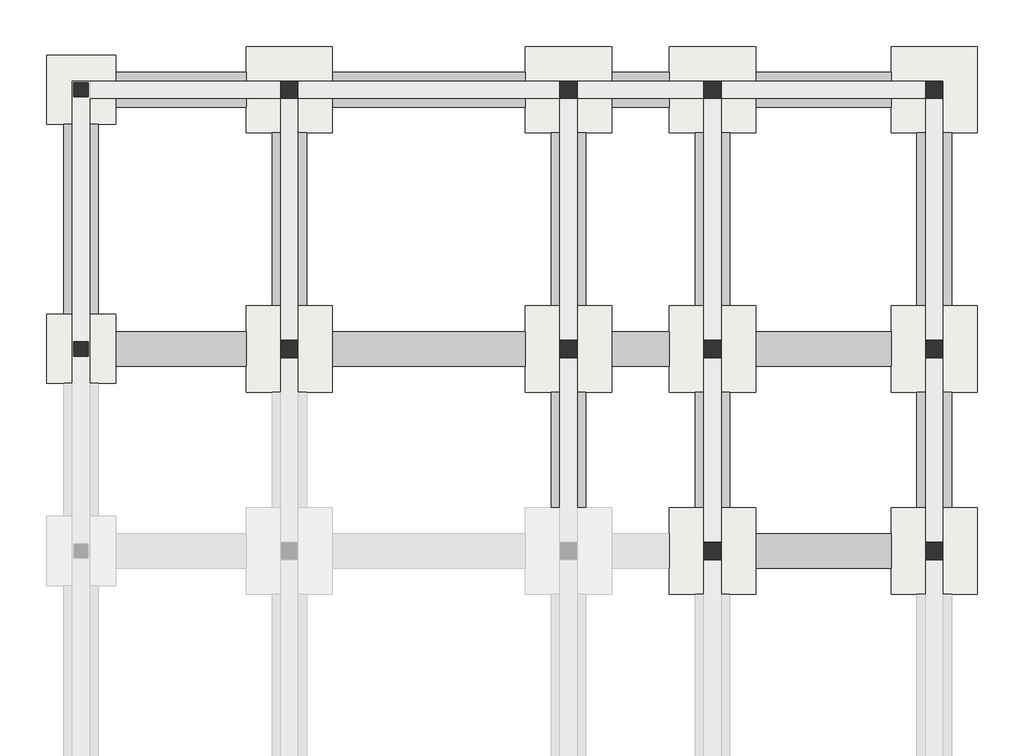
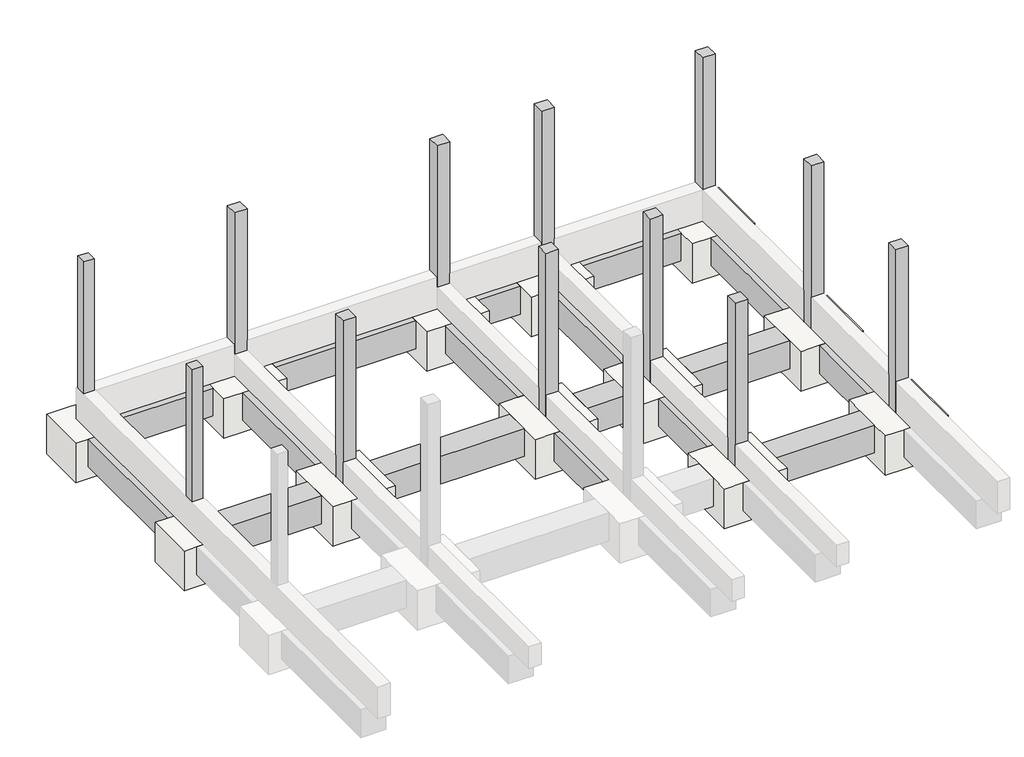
# One storey, part 2 of 2: 17 beams, 12 columns, 12 slabs.
"""IFC4 building model written with IfcOpenShell, lengths in millimetres."""

from ifc_helpers import new_model, si_unit, frame, origin, place, context, project, spatial, polyline, outline, extrude, faceted_brep, element, save

model = new_model("IFC4")

# Units and contexts
model_context = context("Model", 3, world=origin())
ifc_project = project(units=[si_unit("LENGTHUNIT", "METRE", prefix="MILLI")], contexts=[model_context])

# Site, building, storey
site = spatial("IfcSite", under=ifc_project)
building = spatial("IfcBuilding", under=site)
storey = spatial("IfcBuildingStorey", under=building, Name="00.ES.CIMENTACIÓN", Elevation=-680.0)

# Beams
placement = place(None, origin())
element("IfcBeam", 1, ObjectType="Hormigón-Viga rectangular : 600 x 700 mm", at=placement, inside=storey, context=model_context, shape_type="SweptSolid", body=[
    extrude(outline(polyline([(300.0, 12500.0), (900.0, 12500.0), (900.0, 9200.0), (300.0, 9200.0), (300.0, 12500.0)])), frame((0.0, 0.0, -1380.0), z_axis=(0.0, 0.0, 1.0), x_axis=(1.0, 0.0, 0.0)), (0.0, 0.0, 1.0), 700.0),
])
element("IfcBeam", 2, ObjectType="Hormigón-Viga rectangular : 600 x 700 mm", at=placement, inside=storey, context=model_context, shape_type="SweptSolid", body=[
    extrude(outline(polyline([(12315.0, 4790.0610844), (12315.0, 5390.0610844), (14665.0, 5390.0610844), (14665.0, 4790.0610844), (12315.0, 4790.0610844)])), frame((0.0, 0.0, -1380.0), z_axis=(0.0, 0.0, 1.0), x_axis=(1.0, 0.0, 0.0)), (0.0, 0.0, 1.0), 700.0),
])
element("IfcBeam", 3, ObjectType="Hormigón-Viga rectangular : 600 x 700 mm", at=placement, inside=storey, context=model_context, shape_type="SweptSolid", body=[
    extrude(outline(polyline([(12315.0, 8300.0), (12315.0, 8900.0), (14665.0, 8900.0), (14665.0, 8300.0), (12315.0, 8300.0)])), frame((0.0, 0.0, -1380.0), z_axis=(0.0, 0.0, 1.0), x_axis=(1.0, 0.0, 0.0)), (0.0, 0.0, 1.0), 700.0),
])
element("IfcBeam", 4, ObjectType="Hormigón-Viga rectangular : 600 x 700 mm", at=placement, inside=storey, context=model_context, shape_type="SweptSolid", body=[
    extrude(outline(polyline([(9815.0, 8300.0), (9815.0, 8900.0), (10815.0, 8900.0), (10815.0, 8300.0), (9815.0, 8300.0)])), frame((0.0, 0.0, -1380.0), z_axis=(0.0, 0.0, 1.0), x_axis=(1.0, 0.0, 0.0)), (0.0, 0.0, 1.0), 700.0),
])
element("IfcBeam", 5, ObjectType="Hormigón-Viga rectangular : 600 x 700 mm", at=placement, inside=storey, context=model_context, shape_type="SweptSolid", body=[
    extrude(outline(polyline([(4965.0, 8300.0), (4965.0, 8900.0), (8315.0, 8900.0), (8315.0, 8300.0), (4965.0, 8300.0)])), frame((0.0, 0.0, -1380.0), z_axis=(0.0, 0.0, 1.0), x_axis=(1.0, 0.0, 0.0)), (0.0, 0.0, 1.0), 700.0),
])
element("IfcBeam", 6, ObjectType="Hormigón-Viga rectangular : 600 x 700 mm", at=placement, inside=storey, context=model_context, shape_type="SweptSolid", body=[
    extrude(outline(polyline([(3465.0, 8900.0), (3465.0, 8300.0), (1200.0, 8300.0), (1200.0, 8900.0), (3465.0, 8900.0)])), frame((0.0, 0.0, -1380.0), z_axis=(0.0, 0.0, 1.0), x_axis=(1.0, 0.0, 0.0)), (0.0, 0.0, 1.0), 700.0),
])
element("IfcBeam", 7, ObjectType="Hormigón-Viga rectangular : 600 x 700 mm", at=placement, inside=storey, context=model_context, shape_type="SweptSolid", body=[
    extrude(outline(polyline([(12315.0, 12800.0), (12315.0, 13400.0), (14665.0, 13400.0), (14665.0, 12800.0), (12315.0, 12800.0)])), frame((0.0, 0.0, -1380.0), z_axis=(0.0, 0.0, 1.0), x_axis=(1.0, 0.0, 0.0)), (0.0, 0.0, 1.0), 700.0),
])
element("IfcBeam", 8, ObjectType="Hormigón-Viga rectangular : 600 x 700 mm", at=placement, inside=storey, context=model_context, shape_type="SweptSolid", body=[
    extrude(outline(polyline([(9815.0, 12800.0), (9815.0, 13400.0), (10815.0, 13400.0), (10815.0, 12800.0), (9815.0, 12800.0)])), frame((0.0, 0.0, -1380.0), z_axis=(0.0, 0.0, 1.0), x_axis=(1.0, 0.0, 0.0)), (0.0, 0.0, 1.0), 700.0),
])
element("IfcBeam", 9, ObjectType="Hormigón-Viga rectangular : 600 x 700 mm", at=placement, inside=storey, context=model_context, shape_type="SweptSolid", body=[
    extrude(outline(polyline([(4965.0, 12800.0), (4965.0, 13400.0), (8315.0, 13400.0), (8315.0, 12800.0), (4965.0, 12800.0)])), frame((0.0, 0.0, -1380.0), z_axis=(0.0, 0.0, 1.0), x_axis=(1.0, 0.0, 0.0)), (0.0, 0.0, 1.0), 700.0),
])
element("IfcBeam", 10, ObjectType="Hormigón-Viga rectangular : 600 x 700 mm", at=placement, inside=storey, context=model_context, shape_type="SweptSolid", body=[
    extrude(outline(polyline([(3465.0, 13400.0), (3465.0, 12800.0), (1200.0, 12800.0), (1200.0, 13400.0), (3465.0, 13400.0)])), frame((0.0, 0.0, -1380.0), z_axis=(0.0, 0.0, 1.0), x_axis=(1.0, 0.0, 0.0)), (0.0, 0.0, 1.0), 700.0),
])
element("IfcBeam", 11, ObjectType="Hormigón-Viga rectangular : 600 x 700 mm", at=placement, inside=storey, context=model_context, shape_type="SweptSolid", body=[
    extrude(outline(polyline([(3915.0, 12350.0), (4515.0, 12350.0), (4515.0, 9350.0), (3915.0, 9350.0), (3915.0, 12350.0)])), frame((0.0, 0.0, -1380.0), z_axis=(0.0, 0.0, 1.0), x_axis=(1.0, 0.0, 0.0)), (0.0, 0.0, 1.0), 700.0),
])
element("IfcBeam", 12, ObjectType="Hormigón-Viga rectangular : 600 x 700 mm", at=placement, inside=storey, context=model_context, shape_type="SweptSolid", body=[
    extrude(outline(polyline([(8765.0, 7850.0), (9365.0, 7850.0), (9365.0, 5840.0610844), (8765.0, 5840.0610844), (8765.0, 7850.0)])), frame((0.0, 0.0, -1380.0), z_axis=(0.0, 0.0, 1.0), x_axis=(1.0, 0.0, 0.0)), (0.0, 0.0, 1.0), 700.0),
])
element("IfcBeam", 13, ObjectType="Hormigón-Viga rectangular : 600 x 700 mm", at=placement, inside=storey, context=model_context, shape_type="SweptSolid", body=[
    extrude(outline(polyline([(8765.0, 12350.0), (9365.0, 12350.0), (9365.0, 9350.0), (8765.0, 9350.0), (8765.0, 12350.0)])), frame((0.0, 0.0, -1380.0), z_axis=(0.0, 0.0, 1.0), x_axis=(1.0, 0.0, 0.0)), (0.0, 0.0, 1.0), 700.0),
])
element("IfcBeam", 14, ObjectType="Hormigón-Viga rectangular : 600 x 700 mm", at=placement, inside=storey, context=model_context, shape_type="SweptSolid", body=[
    extrude(outline(polyline([(11265.0, 7850.0), (11865.0, 7850.0), (11865.0, 5840.0610844), (11265.0, 5840.0610844), (11265.0, 7850.0)])), frame((0.0, 0.0, -1380.0), z_axis=(0.0, 0.0, 1.0), x_axis=(1.0, 0.0, 0.0)), (0.0, 0.0, 1.0), 700.0),
])
element("IfcBeam", 15, ObjectType="Hormigón-Viga rectangular : 600 x 700 mm", at=placement, inside=storey, context=model_context, shape_type="SweptSolid", body=[
    extrude(outline(polyline([(11265.0, 12350.0), (11865.0, 12350.0), (11865.0, 9350.0), (11265.0, 9350.0), (11265.0, 12350.0)])), frame((0.0, 0.0, -1380.0), z_axis=(0.0, 0.0, 1.0), x_axis=(1.0, 0.0, 0.0)), (0.0, 0.0, 1.0), 700.0),
])
element("IfcBeam", 16, ObjectType="Hormigón-Viga rectangular : 600 x 700 mm", at=placement, inside=storey, context=model_context, shape_type="SweptSolid", body=[
    extrude(outline(polyline([(15115.0, 7850.0), (15715.0, 7850.0), (15715.0, 5840.0610844), (15115.0, 5840.0610844), (15115.0, 7850.0)])), frame((0.0, 0.0, -1380.0), z_axis=(0.0, 0.0, 1.0), x_axis=(1.0, 0.0, 0.0)), (0.0, 0.0, 1.0), 700.0),
])
element("IfcBeam", 17, ObjectType="Hormigón-Viga rectangular : 600 x 700 mm", at=placement, inside=storey, context=model_context, shape_type="SweptSolid", body=[
    extrude(outline(polyline([(15115.0, 12350.0), (15715.0, 12350.0), (15715.0, 9350.0), (15115.0, 9350.0), (15115.0, 12350.0)])), frame((0.0, 0.0, -1380.0), z_axis=(0.0, 0.0, 1.0), x_axis=(1.0, 0.0, 0.0)), (0.0, 0.0, 1.0), 700.0),
])

# Columns
element("IfcColumn", 18, ObjectType="Pilar rectangular hormigón : 250 x 250 mm", at=placement, inside=storey, context=model_context, shape_type="Brep", body=[
    faceted_brep([(725.0, 13225.0, 3450.0), (475.0, 13225.0, 3450.0), (475.0, 12975.0, 3450.0), (725.0, 12975.0, 3450.0), (725.0, 13225.0, -680.0), (725.0, 12975.0, -680.0), (475.0, 12975.0, -680.0), (475.0, 13225.0, -680.0), (725.0, 13225.0, 120.0), (475.0, 13225.0, 120.0), (475.0, 12975.0, 120.0), (725.0, 12975.0, 120.0)], [[[0, 1, 2, 3]], [[4, 5, 6, 7]], [[1, 0, 8, 4, 7, 9]], [[2, 1, 9, 7, 6, 10]], [[3, 2, 10, 6, 5, 11]], [[0, 3, 11, 5, 4, 8]]]),
])
element("IfcColumn", 19, ObjectType="Pilar rectangular hormigón : 250 x 250 mm", at=placement, inside=storey, context=model_context, shape_type="Brep", body=[
    faceted_brep([(725.0, 8725.0, 3450.0), (475.0, 8725.0, 3450.0), (475.0, 8475.0, 3450.0), (725.0, 8475.0, 3450.0), (725.0, 8725.0, -680.0), (725.0, 8475.0, -680.0), (475.0, 8475.0, -680.0), (475.0, 8725.0, -680.0), (725.0, 8725.0, 120.0), (475.0, 8725.0, 120.0), (475.0, 8475.0, 120.0), (725.0, 8475.0, 120.0)], [[[0, 1, 2, 3]], [[4, 5, 6, 7]], [[1, 0, 8, 4, 7, 9]], [[2, 1, 9, 7, 6, 10]], [[3, 2, 10, 6, 5, 11]], [[0, 3, 11, 5, 4, 8]]]),
])
element("IfcColumn", 20, ObjectType="Pilar rectangular hormigón : 300 x 300 mm", at=placement, inside=storey, context=model_context, shape_type="Brep", body=[
    faceted_brep([(4365.0, 13250.0, 3450.0), (4065.0, 13250.0, 3450.0), (4065.0, 12950.0, 3450.0), (4365.0, 12950.0, 3450.0), (4365.0, 13250.0, -680.0), (4365.0, 12950.0, -680.0), (4065.0, 12950.0, -680.0), (4065.0, 13250.0, -680.0), (4365.0, 13250.0, 120.0), (4065.0, 13250.0, 120.0), (4065.0, 12950.0, 120.0), (4065.0, 12950.0, 3050.0), (4365.0, 12950.0, 120.0), (4365.0, 12950.0, 3050.0)], [[[0, 1, 2, 3]], [[4, 5, 6, 7]], [[1, 0, 8, 4, 7, 9]], [[2, 1, 9, 7, 6, 10, 11]], [[3, 2, 11, 10, 6, 5, 12, 13]], [[0, 3, 13, 12, 5, 4, 8]]]),
])
element("IfcColumn", 21, ObjectType="Pilar rectangular hormigón : 300 x 300 mm", at=placement, inside=storey, context=model_context, shape_type="Brep", body=[
    faceted_brep([(9215.0, 13250.0, 3450.0), (8915.0, 13250.0, 3450.0), (8915.0, 12950.0, 3450.0), (9215.0, 12950.0, 3450.0), (9215.0, 13250.0, -680.0), (9215.0, 12950.0, -680.0), (8915.0, 12950.0, -680.0), (8915.0, 13250.0, -680.0), (9215.0, 13250.0, 120.0), (8915.0, 13250.0, 120.0), (8915.0, 12950.0, 120.0), (9215.0, 12950.0, 120.0)], [[[0, 1, 2, 3]], [[4, 5, 6, 7]], [[1, 0, 8, 4, 7, 9]], [[2, 1, 9, 7, 6, 10]], [[3, 2, 10, 6, 5, 11]], [[0, 3, 11, 5, 4, 8]]]),
])
element("IfcColumn", 22, ObjectType="Pilar rectangular hormigón : 300 x 300 mm", at=placement, inside=storey, context=model_context, shape_type="Brep", body=[
    faceted_brep([(11715.0, 13250.0, 3450.0), (11415.0, 13250.0, 3450.0), (11415.0, 12950.0, 3450.0), (11715.0, 12950.0, 3450.0), (11715.0, 13250.0, -680.0), (11715.0, 12950.0, -680.0), (11415.0, 12950.0, -680.0), (11415.0, 13250.0, -680.0), (11715.0, 13250.0, 120.0), (11415.0, 13250.0, 120.0), (11415.0, 12950.0, 120.0), (11715.0, 12950.0, 120.0), (11715.0, 12950.0, 3200.0)], [[[0, 1, 2, 3]], [[4, 5, 6, 7]], [[1, 0, 8, 4, 7, 9]], [[2, 1, 9, 7, 6, 10]], [[3, 2, 10, 6, 5, 11, 12]], [[0, 3, 12, 11, 5, 4, 8]]]),
])
element("IfcColumn", 23, ObjectType="Pilar rectangular hormigón : 300 x 300 mm", at=placement, inside=storey, context=model_context, shape_type="Brep", body=[
    faceted_brep([(15565.0, 13250.0, 3450.0), (15265.0, 13250.0, 3450.0), (15265.0, 12950.0, 3450.0), (15565.0, 12950.0, 3450.0), (15565.0, 13250.0, -680.0), (15565.0, 12950.0, -680.0), (15265.0, 12950.0, -680.0), (15265.0, 13250.0, -680.0), (15565.0, 13250.0, 120.0), (15265.0, 13250.0, 120.0), (15265.0, 12950.0, 120.0), (15265.0, 12950.0, 3200.0), (15565.0, 12950.0, 120.0)], [[[0, 1, 2, 3]], [[4, 5, 6, 7]], [[1, 0, 8, 4, 7, 9]], [[2, 1, 9, 7, 6, 10, 11]], [[3, 2, 11, 10, 6, 5, 12]], [[0, 3, 12, 5, 4, 8]]]),
])
element("IfcColumn", 24, ObjectType="Pilar rectangular hormigón : 300 x 300 mm", at=placement, inside=storey, context=model_context, shape_type="Brep", body=[
    faceted_brep([(4365.0, 8750.0, 3450.0), (4065.0, 8750.0, 3450.0), (4065.0, 8450.0, 3450.0), (4365.0, 8450.0, 3450.0), (4365.0, 8750.0, -680.0), (4365.0, 8450.0, -680.0), (4065.0, 8450.0, -680.0), (4065.0, 8750.0, -680.0), (4365.0, 8750.0, 3050.0), (4365.0, 8750.0, 120.0), (4365.0, 8750.0, -130.0), (4065.0, 8750.0, -130.0), (4065.0, 8750.0, 120.0), (4065.0, 8750.0, 3050.0), (4065.0, 8450.0, -130.0), (4065.0, 8450.0, 120.0), (4065.0, 8450.0, 3050.0), (4365.0, 8450.0, -130.0), (4365.0, 8450.0, 120.0), (4365.0, 8450.0, 3050.0)], [[[0, 1, 2, 3]], [[4, 5, 6, 7]], [[1, 0, 8, 9, 10, 4, 7, 11, 12, 13]], [[2, 1, 13, 12, 11, 7, 6, 14, 15, 16]], [[3, 2, 16, 15, 14, 6, 5, 17, 18, 19]], [[0, 3, 19, 18, 17, 5, 4, 10, 9, 8]]]),
])
element("IfcColumn", 25, ObjectType="Pilar rectangular hormigón : 300 x 300 mm", at=placement, inside=storey, context=model_context, shape_type="Brep", body=[
    faceted_brep([(9215.0, 8750.0, 3450.0), (8915.0, 8750.0, 3450.0), (8915.0, 8450.0, 3450.0), (9215.0, 8450.0, 3450.0), (9215.0, 8750.0, -680.0), (9215.0, 8450.0, -680.0), (8915.0, 8450.0, -680.0), (8915.0, 8750.0, -680.0), (9215.0, 8750.0, 3050.0), (9215.0, 8750.0, 120.0), (9215.0, 8750.0, -130.0), (8915.0, 8750.0, -130.0), (8915.0, 8450.0, -130.0), (9215.0, 8450.0, -130.0), (9215.0, 8450.0, 120.0), (9215.0, 8450.0, 3050.0)], [[[0, 1, 2, 3]], [[4, 5, 6, 7]], [[1, 0, 8, 9, 10, 4, 7, 11]], [[2, 1, 11, 7, 6, 12]], [[3, 2, 12, 6, 5, 13, 14, 15]], [[0, 3, 15, 14, 13, 5, 4, 10, 9, 8]]]),
])
element("IfcColumn", 26, ObjectType="Pilar rectangular hormigón : 300 x 300 mm", at=placement, inside=storey, context=model_context, shape_type="Brep", body=[
    faceted_brep([(11715.0, 8750.0, 3450.0), (11415.0, 8750.0, 3450.0), (11415.0, 8450.0, 3450.0), (11715.0, 8450.0, 3450.0), (11715.0, 8750.0, -680.0), (11715.0, 8450.0, -680.0), (11415.0, 8450.0, -680.0), (11415.0, 8750.0, -680.0), (11715.0, 8750.0, 3200.0), (11715.0, 8750.0, 120.0), (11715.0, 8750.0, -130.0), (11415.0, 8750.0, -130.0), (11415.0, 8750.0, 120.0), (11415.0, 8750.0, 3050.0), (11415.0, 8450.0, -130.0), (11415.0, 8450.0, 120.0), (11415.0, 8450.0, 3050.0), (11715.0, 8450.0, -130.0)], [[[0, 1, 2, 3]], [[4, 5, 6, 7]], [[1, 0, 8, 9, 10, 4, 7, 11, 12, 13]], [[2, 1, 13, 12, 11, 7, 6, 14, 15, 16]], [[3, 2, 16, 15, 14, 6, 5, 17]], [[0, 3, 17, 5, 4, 10, 9, 8]]]),
])
element("IfcColumn", 27, ObjectType="Pilar rectangular hormigón : 300 x 300 mm", at=placement, inside=storey, context=model_context, shape_type="Brep", body=[
    faceted_brep([(15565.0, 8750.0, 3450.0), (15265.0, 8750.0, 3450.0), (15265.0, 8450.0, 3450.0), (15565.0, 8450.0, 3450.0), (15565.0, 8750.0, -680.0), (15565.0, 8450.0, -680.0), (15265.0, 8450.0, -680.0), (15265.0, 8750.0, -680.0), (15565.0, 8750.0, 120.0), (15265.0, 8750.0, 120.0), (15265.0, 8750.0, 3200.0), (15265.0, 8450.0, 120.0), (15265.0, 8450.0, 3200.0), (15565.0, 8450.0, 120.0)], [[[0, 1, 2, 3]], [[4, 5, 6, 7]], [[1, 0, 8, 4, 7, 9, 10]], [[2, 1, 10, 9, 7, 6, 11, 12]], [[3, 2, 12, 11, 6, 5, 13]], [[0, 3, 13, 5, 4, 8]]]),
])
element("IfcColumn", 28, ObjectType="Pilar rectangular hormigón : 300 x 300 mm", at=placement, inside=storey, context=model_context, shape_type="Brep", body=[
    faceted_brep([(11715.0, 5240.0610844, 3450.0), (11415.0, 5240.0610844, 3450.0), (11415.0, 4940.0610844, 3450.0), (11715.0, 4940.0610844, 3450.0), (11715.0, 5240.0610844, -680.0), (11715.0, 4940.0610844, -680.0), (11415.0, 4940.0610844, -680.0), (11415.0, 5240.0610844, -680.0), (11715.0, 5240.0610844, -130.0), (11415.0, 5240.0610844, -130.0), (11415.0, 5240.0610844, 120.0), (11415.0, 5240.0610844, 3050.0), (11415.0, 4940.0610844, -130.0), (11415.0, 4940.0610844, 120.0), (11415.0, 4940.0610844, 3050.0), (11715.0, 4940.0610844, -130.0)], [[[0, 1, 2, 3]], [[4, 5, 6, 7]], [[1, 0, 8, 4, 7, 9, 10, 11]], [[2, 1, 11, 10, 9, 7, 6, 12, 13, 14]], [[3, 2, 14, 13, 12, 6, 5, 15]], [[0, 3, 15, 5, 4, 8]]]),
])
element("IfcColumn", 29, ObjectType="Pilar rectangular hormigón : 300 x 300 mm", at=placement, inside=storey, context=model_context, shape_type="Brep", body=[
    faceted_brep([(15565.0, 5240.0610844, 3450.0), (15265.0, 5240.0610844, 3450.0), (15265.0, 4940.0610844, 3450.0), (15565.0, 4940.0610844, 3450.0), (15565.0, 5240.0610844, -680.0), (15565.0, 4940.0610844, -680.0), (15265.0, 4940.0610844, -680.0), (15265.0, 5240.0610844, -680.0), (15565.0, 5240.0610844, 120.0), (15265.0, 5240.0610844, 120.0), (15265.0, 5240.0610844, 3200.0), (15265.0, 4940.0610844, 120.0), (15265.0, 4940.0610844, 3050.0), (15565.0, 4940.0610844, 120.0), (15565.0, 4940.0610844, 3050.0)], [[[0, 1, 2, 3]], [[4, 5, 6, 7]], [[1, 0, 8, 4, 7, 9, 10]], [[2, 1, 10, 9, 7, 6, 11, 12]], [[3, 2, 12, 11, 6, 5, 13, 14]], [[0, 3, 14, 13, 5, 4, 8]]]),
])

# Slabs
element("IfcSlab", 30, ObjectType="Zapata-Rectangular : 1200 x 1200 x 1000 mm", at=placement, inside=storey, context=model_context, shape_type="Brep", body=[
    faceted_brep([(1200.0, 13700.0, -680.0), (0.0, 13700.0, -680.0), (0.0, 12500.0, -680.0), (300.0, 12500.0, -680.0), (900.0, 12500.0, -680.0), (1200.0, 12500.0, -680.0), (1200.0, 12800.0, -680.0), (1200.0, 13400.0, -680.0), (1200.0, 13700.0, -1680.0), (1200.0, 12500.0, -1680.0), (0.0, 12500.0, -1680.0), (0.0, 13700.0, -1680.0)], [[[0, 1, 2, 3, 4, 5, 6, 7]], [[8, 9, 10, 11]], [[1, 0, 8, 11]], [[2, 1, 11, 10]], [[5, 4, 3, 2, 10, 9]], [[0, 7, 6, 5, 9, 8]]]),
])
element("IfcSlab", 31, ObjectType="Zapata-Rectangular : 1200 x 1200 x 1000 mm", at=placement, inside=storey, context=model_context, shape_type="Brep", body=[
    faceted_brep([(1200.0, 9200.0, -680.0), (900.0, 9200.0, -680.0), (300.0, 9200.0, -680.0), (0.0, 9200.0, -680.0), (0.0, 8000.0, -680.0), (300.0, 8000.0, -680.0), (900.0, 8000.0, -680.0), (1200.0, 8000.0, -680.0), (1200.0, 8300.0, -680.0), (1200.0, 8900.0, -680.0), (1200.0, 9200.0, -1680.0), (1200.0, 8000.0, -1680.0), (0.0, 8000.0, -1680.0), (0.0, 9200.0, -1680.0)], [[[0, 1, 2, 3, 4, 5, 6, 7, 8, 9]], [[10, 11, 12, 13]], [[3, 2, 1, 0, 10, 13]], [[4, 3, 13, 12]], [[7, 6, 5, 4, 12, 11]], [[0, 9, 8, 7, 11, 10]]]),
])
element("IfcSlab", 32, ObjectType="Zapata-Rectangular : 1500 x 1500 x 1000 mm", at=placement, inside=storey, context=model_context, shape_type="Brep", body=[
    faceted_brep([(4965.0, 13850.0, -680.0), (3465.0, 13850.0, -680.0), (3465.0, 13400.0, -680.0), (3465.0, 12800.0, -680.0), (3465.0, 12350.0, -680.0), (3915.0, 12350.0, -680.0), (4515.0, 12350.0, -680.0), (4965.0, 12350.0, -680.0), (4965.0, 12800.0, -680.0), (4965.0, 13400.0, -680.0), (4965.0, 13850.0, -1680.0), (4965.0, 12350.0, -1680.0), (3465.0, 12350.0, -1680.0), (3465.0, 13850.0, -1680.0)], [[[0, 1, 2, 3, 4, 5, 6, 7, 8, 9]], [[10, 11, 12, 13]], [[1, 0, 10, 13]], [[4, 3, 2, 1, 13, 12]], [[7, 6, 5, 4, 12, 11]], [[0, 9, 8, 7, 11, 10]]]),
])
element("IfcSlab", 33, ObjectType="Zapata-Rectangular : 1500 x 1500 x 1000 mm", at=placement, inside=storey, context=model_context, shape_type="Brep", body=[
    faceted_brep([(9815.0, 13850.0, -680.0), (8315.0, 13850.0, -680.0), (8315.0, 13400.0, -680.0), (8315.0, 12800.0, -680.0), (8315.0, 12350.0, -680.0), (8765.0, 12350.0, -680.0), (9365.0, 12350.0, -680.0), (9815.0, 12350.0, -680.0), (9815.0, 12800.0, -680.0), (9815.0, 13400.0, -680.0), (9815.0, 13850.0, -1680.0), (9815.0, 12350.0, -1680.0), (8315.0, 12350.0, -1680.0), (8315.0, 13850.0, -1680.0)], [[[0, 1, 2, 3, 4, 5, 6, 7, 8, 9]], [[10, 11, 12, 13]], [[1, 0, 10, 13]], [[4, 3, 2, 1, 13, 12]], [[7, 6, 5, 4, 12, 11]], [[0, 9, 8, 7, 11, 10]]]),
])
element("IfcSlab", 34, ObjectType="Zapata-Rectangular : 1500 x 1500 x 1000 mm", at=placement, inside=storey, context=model_context, shape_type="Brep", body=[
    faceted_brep([(12315.0, 13850.0, -680.0), (10815.0, 13850.0, -680.0), (10815.0, 13400.0, -680.0), (10815.0, 12800.0, -680.0), (10815.0, 12350.0, -680.0), (11265.0, 12350.0, -680.0), (11865.0, 12350.0, -680.0), (12315.0, 12350.0, -680.0), (12315.0, 12800.0, -680.0), (12315.0, 13400.0, -680.0), (12315.0, 13850.0, -1680.0), (12315.0, 12350.0, -1680.0), (10815.0, 12350.0, -1680.0), (10815.0, 13850.0, -1680.0)], [[[0, 1, 2, 3, 4, 5, 6, 7, 8, 9]], [[10, 11, 12, 13]], [[1, 0, 10, 13]], [[4, 3, 2, 1, 13, 12]], [[7, 6, 5, 4, 12, 11]], [[0, 9, 8, 7, 11, 10]]]),
])
element("IfcSlab", 35, ObjectType="Zapata-Rectangular : 1500 x 1500 x 1000 mm", at=placement, inside=storey, context=model_context, shape_type="Brep", body=[
    faceted_brep([(16165.0, 13850.0, -680.0), (14665.0, 13850.0, -680.0), (14665.0, 13400.0, -680.0), (14665.0, 12800.0, -680.0), (14665.0, 12350.0, -680.0), (15115.0, 12350.0, -680.0), (15715.0, 12350.0, -680.0), (16165.0, 12350.0, -680.0), (16165.0, 13850.0, -1680.0), (16165.0, 12350.0, -1680.0), (14665.0, 12350.0, -1680.0), (14665.0, 13850.0, -1680.0)], [[[0, 1, 2, 3, 4, 5, 6, 7]], [[8, 9, 10, 11]], [[1, 0, 8, 11]], [[4, 3, 2, 1, 11, 10]], [[7, 6, 5, 4, 10, 9]], [[0, 7, 9, 8]]]),
])
element("IfcSlab", 36, ObjectType="Zapata-Rectangular : 1500 x 1500 x 1000 mm", at=placement, inside=storey, context=model_context, shape_type="Brep", body=[
    faceted_brep([(4965.0, 9350.0, -680.0), (4515.0, 9350.0, -680.0), (3915.0, 9350.0, -680.0), (3465.0, 9350.0, -680.0), (3465.0, 8900.0, -680.0), (3465.0, 8300.0, -680.0), (3465.0, 7850.0, -680.0), (3915.0, 7850.0, -680.0), (4515.0, 7850.0, -680.0), (4965.0, 7850.0, -680.0), (4965.0, 8300.0, -680.0), (4965.0, 8900.0, -680.0), (4965.0, 9350.0, -1680.0), (4965.0, 7850.0, -1680.0), (3465.0, 7850.0, -1680.0), (3465.0, 9350.0, -1680.0)], [[[0, 1, 2, 3, 4, 5, 6, 7, 8, 9, 10, 11]], [[12, 13, 14, 15]], [[3, 2, 1, 0, 12, 15]], [[6, 5, 4, 3, 15, 14]], [[9, 8, 7, 6, 14, 13]], [[0, 11, 10, 9, 13, 12]]]),
])
element("IfcSlab", 37, ObjectType="Zapata-Rectangular : 1500 x 1500 x 1000 mm", at=placement, inside=storey, context=model_context, shape_type="Brep", body=[
    faceted_brep([(9815.0, 9350.0, -680.0), (9365.0, 9350.0, -680.0), (8765.0, 9350.0, -680.0), (8315.0, 9350.0, -680.0), (8315.0, 8900.0, -680.0), (8315.0, 8300.0, -680.0), (8315.0, 7850.0, -680.0), (8765.0, 7850.0, -680.0), (9365.0, 7850.0, -680.0), (9815.0, 7850.0, -680.0), (9815.0, 8300.0, -680.0), (9815.0, 8900.0, -680.0), (9815.0, 9350.0, -1680.0), (9815.0, 7850.0, -1680.0), (8315.0, 7850.0, -1680.0), (8315.0, 9350.0, -1680.0)], [[[0, 1, 2, 3, 4, 5, 6, 7, 8, 9, 10, 11]], [[12, 13, 14, 15]], [[3, 2, 1, 0, 12, 15]], [[6, 5, 4, 3, 15, 14]], [[9, 8, 7, 6, 14, 13]], [[0, 11, 10, 9, 13, 12]]]),
])
element("IfcSlab", 38, ObjectType="Zapata-Rectangular : 1500 x 1500 x 1000 mm", at=placement, inside=storey, context=model_context, shape_type="Brep", body=[
    faceted_brep([(12315.0, 9350.0, -680.0), (11865.0, 9350.0, -680.0), (11265.0, 9350.0, -680.0), (10815.0, 9350.0, -680.0), (10815.0, 8900.0, -680.0), (10815.0, 8300.0, -680.0), (10815.0, 7850.0, -680.0), (11265.0, 7850.0, -680.0), (11865.0, 7850.0, -680.0), (12315.0, 7850.0, -680.0), (12315.0, 8300.0, -680.0), (12315.0, 8900.0, -680.0), (12315.0, 9350.0, -1680.0), (12315.0, 7850.0, -1680.0), (10815.0, 7850.0, -1680.0), (10815.0, 9350.0, -1680.0)], [[[0, 1, 2, 3, 4, 5, 6, 7, 8, 9, 10, 11]], [[12, 13, 14, 15]], [[3, 2, 1, 0, 12, 15]], [[6, 5, 4, 3, 15, 14]], [[9, 8, 7, 6, 14, 13]], [[0, 11, 10, 9, 13, 12]]]),
])
element("IfcSlab", 39, ObjectType="Zapata-Rectangular : 1500 x 1500 x 1000 mm", at=placement, inside=storey, context=model_context, shape_type="Brep", body=[
    faceted_brep([(16165.0, 9350.0, -680.0), (15715.0, 9350.0, -680.0), (15115.0, 9350.0, -680.0), (14665.0, 9350.0, -680.0), (14665.0, 8900.0, -680.0), (14665.0, 8300.0, -680.0), (14665.0, 7850.0, -680.0), (15115.0, 7850.0, -680.0), (15715.0, 7850.0, -680.0), (16165.0, 7850.0, -680.0), (16165.0, 9350.0, -1680.0), (16165.0, 7850.0, -1680.0), (14665.0, 7850.0, -1680.0), (14665.0, 9350.0, -1680.0)], [[[0, 1, 2, 3, 4, 5, 6, 7, 8, 9]], [[10, 11, 12, 13]], [[3, 2, 1, 0, 10, 13]], [[6, 5, 4, 3, 13, 12]], [[9, 8, 7, 6, 12, 11]], [[0, 9, 11, 10]]]),
])
element("IfcSlab", 40, ObjectType="Zapata-Rectangular : 1500 x 1500 x 1000 mm", at=placement, inside=storey, context=model_context, shape_type="Brep", body=[
    faceted_brep([(12315.0, 5840.0610844, -680.0), (11865.0, 5840.0610844, -680.0), (11265.0, 5840.0610844, -680.0), (10815.0, 5840.0610844, -680.0), (10815.0, 5390.0610844, -680.0), (10815.0, 4790.0610844, -680.0), (10815.0, 4340.0610844, -680.0), (11265.0, 4340.0610844, -680.0), (11865.0, 4340.0610844, -680.0), (12315.0, 4340.0610844, -680.0), (12315.0, 4790.0610844, -680.0), (12315.0, 5390.0610844, -680.0), (12315.0, 5840.0610844, -1680.0), (12315.0, 4340.0610844, -1680.0), (10815.0, 4340.0610844, -1680.0), (10815.0, 5840.0610844, -1680.0)], [[[0, 1, 2, 3, 4, 5, 6, 7, 8, 9, 10, 11]], [[12, 13, 14, 15]], [[3, 2, 1, 0, 12, 15]], [[6, 5, 4, 3, 15, 14]], [[9, 8, 7, 6, 14, 13]], [[0, 11, 10, 9, 13, 12]]]),
])
element("IfcSlab", 41, ObjectType="Zapata-Rectangular : 1500 x 1500 x 1000 mm", at=placement, inside=storey, context=model_context, shape_type="Brep", body=[
    faceted_brep([(16165.0, 5840.0610844, -680.0), (15715.0, 5840.0610844, -680.0), (15115.0, 5840.0610844, -680.0), (14665.0, 5840.0610844, -680.0), (14665.0, 5390.0610844, -680.0), (14665.0, 4790.0610844, -680.0), (14665.0, 4340.0610844, -680.0), (15115.0, 4340.0610844, -680.0), (15715.0, 4340.0610844, -680.0), (16165.0, 4340.0610844, -680.0), (16165.0, 5840.0610844, -1680.0), (16165.0, 4340.0610844, -1680.0), (14665.0, 4340.0610844, -1680.0), (14665.0, 5840.0610844, -1680.0)], [[[0, 1, 2, 3, 4, 5, 6, 7, 8, 9]], [[10, 11, 12, 13]], [[3, 2, 1, 0, 10, 13]], [[6, 5, 4, 3, 13, 12]], [[9, 8, 7, 6, 12, 11]], [[0, 9, 11, 10]]]),
])

save(model, "model.ifc")
